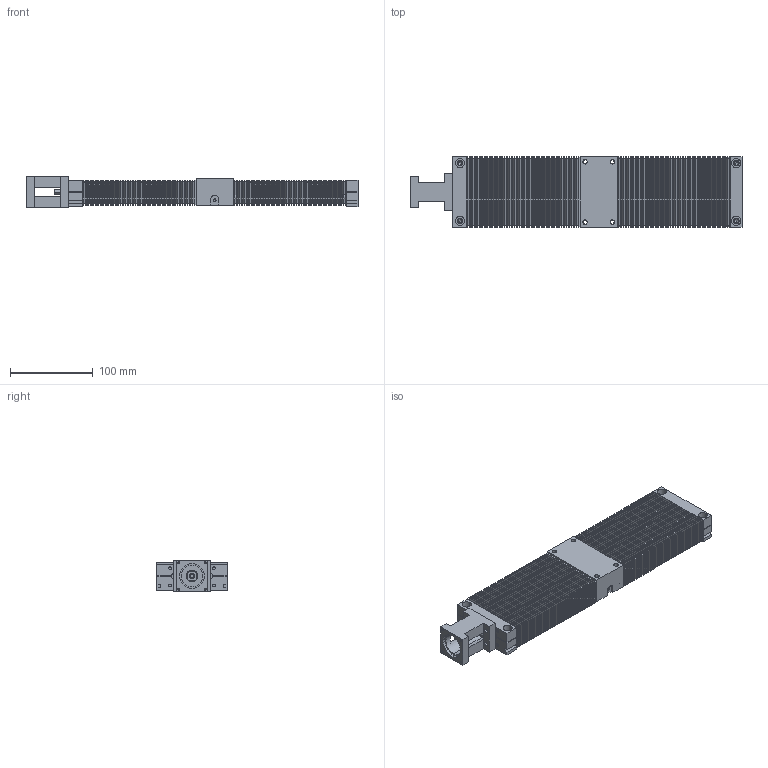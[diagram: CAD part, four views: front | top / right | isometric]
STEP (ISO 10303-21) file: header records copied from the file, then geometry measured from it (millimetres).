
FILE_DESCRIPTION (( 'STEP AP214' ), '1' );
FILE_NAME ('TKC0802B-150-F0-C-潠眢耀郪-20240914.STEP', '2024-09-14T03:42:56', ( '' ), ( '' ), 'SwSTEP 2.0', 'SolidWorks 2020', '' );
FILE_SCHEMA (( 'AUTOMOTIVE_DESIGN' ));
Length unit declared in the file: millimetre
Products named in the file (6): 鎮湛釱-100W; TKC08-150-瑞р欶; tkc08-賑怢; TKC0802B-150-F0-C-潠眢耀郪-20240914; tkc08-盓傅釱; tkc08-150-嘐隅盓傅釱
Assembly tree (6 placements, depth 2):
  TKC0802B-150-F0-C-潠眢耀郪-20240914
    tkc08-盓傅釱
    tkc08-賑怢
    tkc08-150-嘐隅盓傅釱
    TKC08-150-瑞р欶  x2
    鎮湛釱-100W
Bounding box: 402 x 85 x 38 mm (x, y, z)
Volume: 462164.6 mm3; surface area: 309754.4 mm2
Topology: 62 solids, 62 shells, 2032 faces, 4393 edges, 2422 vertices
Faces by surface type: plane 1340, cylinder 387, bspline 169, cone 128, torus 8
Entity records: 56423 total; most frequent: CARTESIAN_POINT 14458, DIRECTION 6406, ORIENTED_EDGE 6330, EDGE_CURVE 3165, AXIS2_PLACEMENT_3D 2278, VERTEX_POINT 1866, LINE 1850, VECTOR 1850
